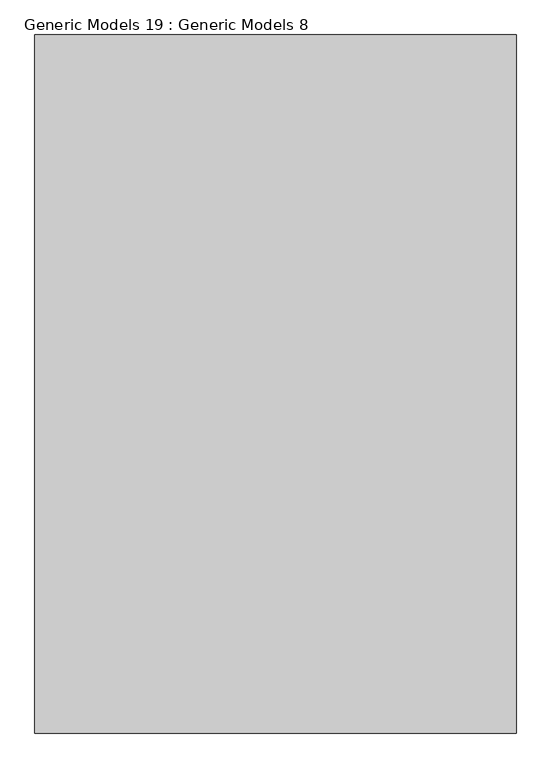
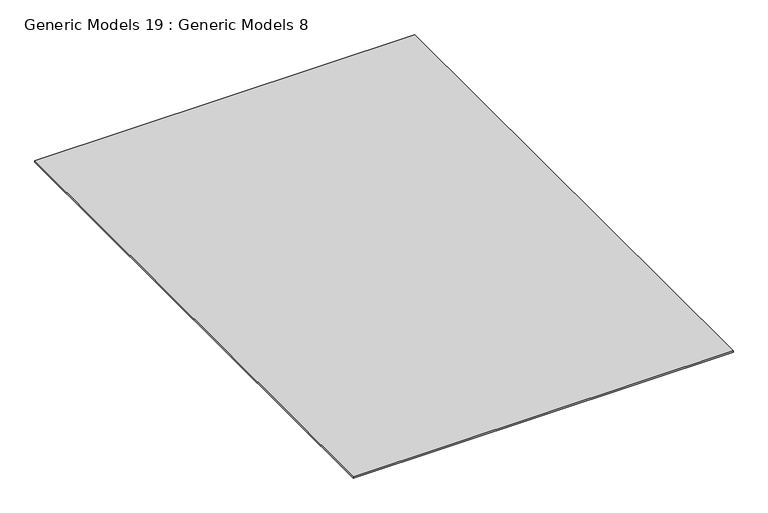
"""IFC4 building model written with IfcOpenShell, lengths in millimetres: proxy geometry, Generic Models 19 : Generic Models 8."""

import ifcopenshell
import ifcopenshell.guid

model = None  # the IFC model being written
_history = None  # IfcOwnerHistory: only IFC2X3 demands one
_inside = {}  # id of a spatial element -> (the spatial element, [elements in it])
_under = {}  # id of a project, library or spatial element -> (it, [spatial elements below it])
_declared = {}  # id of a project -> (the project, [libraries it declares])
_typed = {}  # id of a type object -> (the type object, [elements of that type])
_made_of = {}  # id of a material, layer set ... -> (it, [elements and type objects made of it])


def new_model(schema):
    """Start an empty IFC model of exactly this schema.

    Asked for "IFC4X3", IfcOpenShell would pick the latest addendum, in which some entities
    have other attributes; the version numbers below select the first issue.
    IFC2X3 requires an IfcOwnerHistory on every rooted entity: one is made here for all.
    """
    global model, _history
    if schema == "IFC4X3":
        model = ifcopenshell.file(schema_version=(4, 3, 0, 0))
    else:
        model = ifcopenshell.file(schema=schema)
    _inside.clear()
    _under.clear()
    _declared.clear()
    _typed.clear()
    _made_of.clear()
    _history = None
    if model.schema == "IFC2X3":
        org = make("IfcOrganization", Name="unknown")
        user = make(
            "IfcPersonAndOrganization",
            ThePerson=make("IfcPerson", FamilyName="unknown"),
            TheOrganization=org,
        )
        app = make(
            "IfcApplication",
            ApplicationDeveloper=org,
            Version="unknown",
            ApplicationFullName="unknown",
            ApplicationIdentifier="unknown",
        )
        _history = make(
            "IfcOwnerHistory",
            OwningUser=user,
            OwningApplication=app,
            ChangeAction="ADDED",
            CreationDate=0,
        )
    return model


def make(cls, **values):
    """One entity of the class cls with the attributes given. An attribute that is None is left unset."""
    return model.create_entity(
        cls, **{name: value for name, value in values.items() if value is not None}
    )


def rooted(cls, **values):
    """An entity with a GlobalId (a new one), such as an element, a storey or a relation."""
    return make(cls, GlobalId=ifcopenshell.guid.new(), OwnerHistory=_history, **values)


def si_unit(unit_type, name, prefix=None):
    """IfcSIUnit, for example si_unit("LENGTHUNIT", "METRE", prefix="MILLI")."""
    return make("IfcSIUnit", UnitType=unit_type, Prefix=prefix, Name=name)


def assignment(units):
    """IfcUnitAssignment: the units of a project."""
    return None if units is None else make("IfcUnitAssignment", Units=units)


def point(xyz):
    """IfcCartesianPoint."""
    return None if xyz is None else make("IfcCartesianPoint", Coordinates=xyz)


def direction(xyz):
    """IfcDirection."""
    return None if xyz is None else make("IfcDirection", DirectionRatios=xyz)


def frame(location, z_axis=None, x_axis=None):
    """IfcAxis2Placement3D, a coordinate frame: its origin and axes. An axis left out is left unset."""
    return make(
        "IfcAxis2Placement3D",
        Location=point(location),
        Axis=direction(z_axis),
        RefDirection=direction(x_axis),
    )


def origin():
    """The frame at (0, 0, 0) with its axes left unset."""
    return frame((0.0, 0.0, 0.0))


def origin_with_axes():
    """The frame at (0, 0, 0) with the z axis (0, 0, 1) and the x axis (1, 0, 0) written out."""
    return frame((0.0, 0.0, 0.0), z_axis=(0.0, 0.0, 1.0), x_axis=(1.0, 0.0, 0.0))


def place(relative_to, where):
    """IfcLocalPlacement: puts the frame where relative to a parent placement (None: the world)."""
    return make(
        "IfcLocalPlacement", PlacementRelTo=relative_to, RelativePlacement=where
    )


def context(
    kind, dimensions, precision=None, world=None, true_north=None, identifier=None
):
    """IfcGeometricRepresentationContext, for example the 3D "Model" context."""
    return make(
        "IfcGeometricRepresentationContext",
        ContextIdentifier=identifier,
        ContextType=kind,
        CoordinateSpaceDimension=dimensions,
        Precision=precision,
        WorldCoordinateSystem=world,
        TrueNorth=true_north,
    )


def project(units=None, contexts=None):
    """IfcProject with its units and contexts."""
    return rooted(
        "IfcProject",
        Name="project",
        RepresentationContexts=contexts,
        UnitsInContext=assignment(units),
    )


def spatial(cls, under=None, at=None, **own):
    """A site, building, storey or space (cls), placed at a placement, below another one or the project."""
    s = rooted(cls, ObjectPlacement=at, **own)
    if under is not None:
        _under.setdefault(under.id(), (under, []))[1].append(s)
    return s


def polyline(points):
    """IfcPolyline through the points."""
    return make("IfcPolyline", Points=[point(p) for p in points])


def outline(outer, holes=None, kind="AREA"):
    """IfcArbitraryClosedProfileDef: a profile drawn as a closed curve; with holes, ...WithVoids."""
    if holes is None:
        return make("IfcArbitraryClosedProfileDef", ProfileType=kind, OuterCurve=outer)
    return make(
        "IfcArbitraryProfileDefWithVoids",
        ProfileType=kind,
        OuterCurve=outer,
        InnerCurves=holes,
    )


def extrude(swept, where, along, depth):
    """IfcExtrudedAreaSolid: the profile swept, set in the frame where, extruded along a direction by depth."""
    return make(
        "IfcExtrudedAreaSolid",
        SweptArea=swept,
        Position=where,
        ExtrudedDirection=direction(along),
        Depth=depth,
    )


def shape(context_of_items, identifier, shape_type, items):
    """IfcShapeRepresentation: the items that make up one representation, for example the "Body"."""
    return make(
        "IfcShapeRepresentation",
        ContextOfItems=context_of_items,
        RepresentationIdentifier=identifier,
        RepresentationType=shape_type,
        Items=items,
    )


def source(mapping_origin, context_of_items, identifier, shape_type, items):
    """IfcRepresentationMap: a shape defined once, which mapped items show again and again."""
    return make(
        "IfcRepresentationMap",
        MappingOrigin=mapping_origin,
        MappedRepresentation=shape(context_of_items, identifier, shape_type, items),
    )


def transform(
    local_origin,
    x_axis=None,
    y_axis=None,
    z_axis=None,
    scale=None,
    scale2=None,
    scale3=None,
    uniform=True,
):
    """IfcCartesianTransformationOperator3D, or its non-uniform kind. x_axis, y_axis, z_axis: its Axis1, 2, 3."""
    if uniform:
        return make(
            "IfcCartesianTransformationOperator3D",
            Axis1=direction(x_axis),
            Axis2=direction(y_axis),
            LocalOrigin=point(local_origin),
            Scale=scale,
            Axis3=direction(z_axis),
        )
    return make(
        "IfcCartesianTransformationOperator3DnonUniform",
        Axis1=direction(x_axis),
        Axis2=direction(y_axis),
        LocalOrigin=point(local_origin),
        Scale=scale,
        Axis3=direction(z_axis),
        Scale2=scale2,
        Scale3=scale3,
    )


def mapped(mapping_source, mapping_target):
    """IfcMappedItem: shows the shape of a source again, moved by a transform."""
    return make(
        "IfcMappedItem", MappingSource=mapping_source, MappingTarget=mapping_target
    )


def made_of(thing, what):
    """Note that an element or type object is made of a material, layer set ...; save() writes the relation."""
    if what is not None:
        _made_of.setdefault(what.id(), (what, []))[1].append(thing)
    return thing


def element(
    cls,
    number,
    at=None,
    inside=None,
    cuts=None,
    type_object=None,
    material=None,
    context=None,
    identifier="Body",
    shape_type=None,
    held_by="IfcProductDefinitionShape",
    body=None,
    shapes=None,
    **own,
):
    """One element of the class cls, such as IfcWall. Its Tag is "e" and its number.

    at: its placement. inside: the storey or other place that contains it. cuts: it is an
    opening in that element (IfcRelVoidsElement). A single representation is given by context,
    identifier, shape_type and body (its items); several are given by shapes. held_by: the class
    of the entity that holds the representations. save() writes the other relations.
    """
    e = rooted(cls, Tag="e%d" % number, ObjectPlacement=at, **own)
    if body is not None:
        shapes = [shape(context, identifier, shape_type, body)]
    if shapes is not None:
        e.Representation = make(held_by, Representations=shapes)
    if inside is not None:
        _inside.setdefault(inside.id(), (inside, []))[1].append(e)
    if cuts is not None:
        rooted(
            "IfcRelVoidsElement", RelatingBuildingElement=cuts, RelatedOpeningElement=e
        )
    if type_object is not None:
        _typed.setdefault(type_object.id(), (type_object, []))[1].append(e)
    return made_of(e, material)


def aggregate(whole, parts):
    """IfcRelAggregates: a whole, such as a stair, and the parts it consists of."""
    return rooted("IfcRelAggregates", RelatingObject=whole, RelatedObjects=parts)


def save(model, path):
    """Write the relations noted so far, then the file.

    IfcRelAggregates (storeys below a building ...), IfcRelContainedInSpatialStructure (elements
    in a storey), IfcRelDefinesByType, IfcRelAssociatesMaterial and IfcRelDeclares: one each for
    every whole, place, type object, material and project.
    """
    for whole, parts in _under.values():
        aggregate(whole, parts)
    for where, things in _inside.values():
        rooted(
            "IfcRelContainedInSpatialStructure",
            RelatedElements=things,
            RelatingStructure=where,
        )
    for kind, things in _typed.values():
        rooted("IfcRelDefinesByType", RelatedObjects=things, RelatingType=kind)
    for what, things in _made_of.values():
        rooted("IfcRelAssociatesMaterial", RelatedObjects=things, RelatingMaterial=what)
    for by, libraries in _declared.values():
        rooted("IfcRelDeclares", RelatingContext=by, RelatedDefinitions=libraries)
    model.write(path)


def generic_models_19_generic_models_8_cfde6224(model_context):
    return source(origin(), model_context, "Body", "SweptSolid", [
        extrude(outline(polyline([(94027.2158859, 17314.8620938), (95434.9078585, 17314.8620938), (95434.9078585, 15274.0992344), (94027.2158859, 15274.0992344), (94027.2158859, 17314.8620938)])), origin_with_axes(), (0.0, 0.0, 1.0), 5.0),
    ])


if __name__ == "__main__":
    model = new_model("IFC4")
    model_context = context("Model", 3, world=origin())
    ifc_project = project(units=[si_unit("LENGTHUNIT", "METRE", prefix="MILLI")], contexts=[model_context])
    site = spatial("IfcSite", under=ifc_project)
    building = spatial("IfcBuilding", under=site)
    placement = place(None, origin())
    generic_models_19_generic_models_8_shape = generic_models_19_generic_models_8_cfde6224(model_context)
    element("IfcBuildingElementProxy", 1, Name="Generic Models 19 : Generic Models 8", ObjectType="Generic Models 19 : Generic Models 8", at=placement, inside=building, context=model_context, shape_type="MappedRepresentation", body=[
        mapped(generic_models_19_generic_models_8_shape, transform((0.0, 0.0, 0.0), x_axis=(1.0, 0.0, 0.0), y_axis=(0.0, 1.0, 0.0), z_axis=(0.0, 0.0, 1.0))),
    ])
    save(model, "model.ifc")
